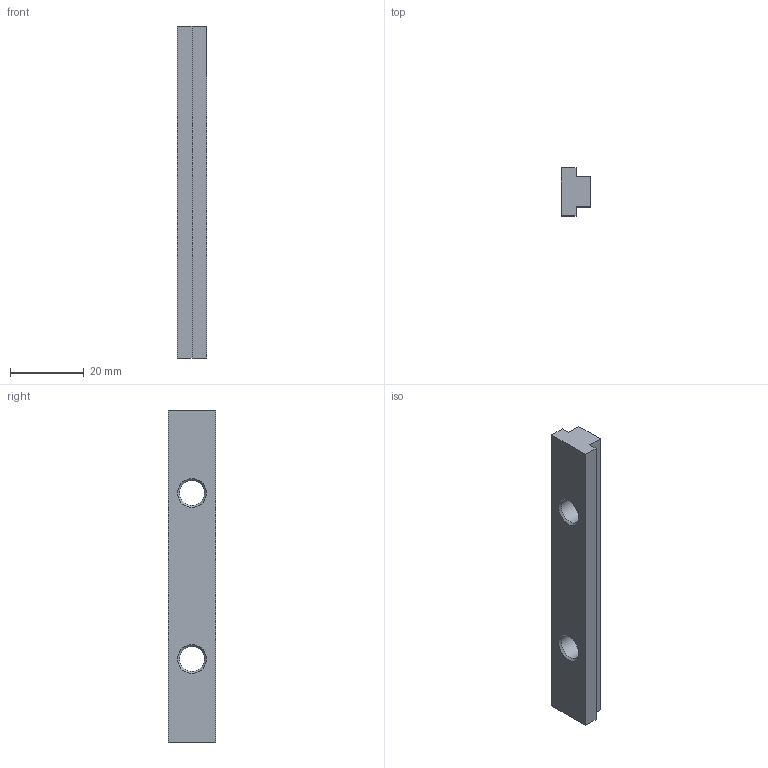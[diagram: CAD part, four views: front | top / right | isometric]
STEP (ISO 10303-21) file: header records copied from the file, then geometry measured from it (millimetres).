
FILE_DESCRIPTION (( 'STEP AP214' ), '1' );
FILE_NAME ('SF01018.step', '2024-12-03T16:29:26', ( '' ), ( '' ), 'SwSTEP 2.0', 'SolidWorks 2023', '' );
FILE_SCHEMA (( 'AUTOMOTIVE_DESIGN' ));
Length unit declared in the file: millimetre
Products named in the file (1): SF01018
Bounding box: 8 x 13 x 90 mm (x, y, z)
Volume: 7039.7 mm3; surface area: 4122.4 mm2
Topology: 1 solids, 1 shells, 16 faces, 42 edges, 28 vertices
Faces by surface type: plane 10, cone 4, cylinder 2
Full cylindrical faces by diameter (mm): 6.8 x2
Entity records: 459 total; most frequent: DIRECTION 74, CARTESIAN_POINT 73, ORIENTED_EDGE 64, EDGE_CURVE 32, EDGE_LOOP 26, AXIS2_PLACEMENT_3D 25, VERTEX_POINT 24, VECTOR 24
